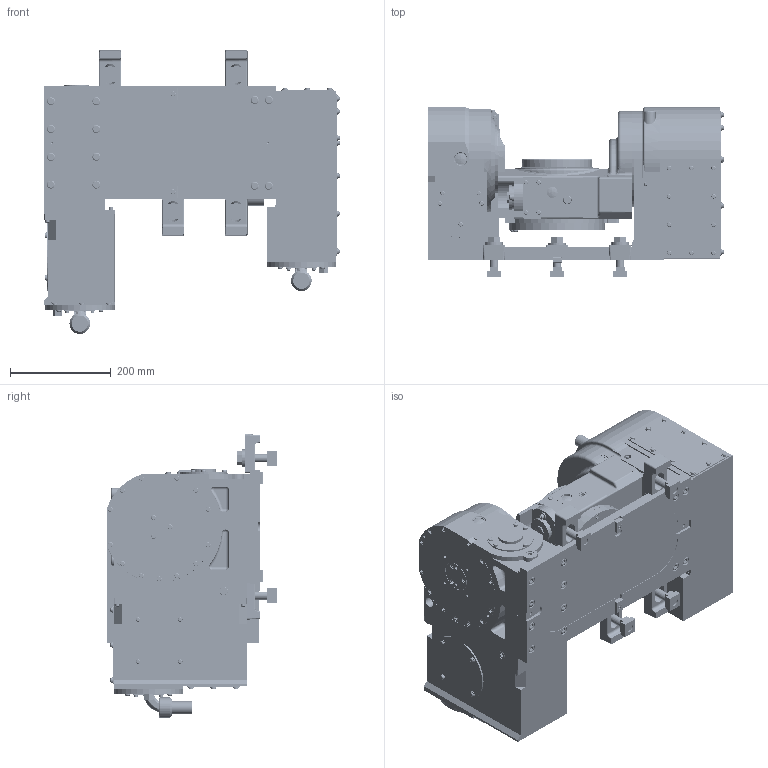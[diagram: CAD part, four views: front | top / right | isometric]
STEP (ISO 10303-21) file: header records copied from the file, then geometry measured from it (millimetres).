
FILE_DESCRIPTION (( 'STEP AP214' ), '1' );
FILE_NAME ('【掲載用】TT140Quinte.STEP', '2019-10-15T04:02:57', ( '' ), ( '' ), 'SwSTEP 2.0', 'SolidWorks 2017', '' );
FILE_SCHEMA (( 'AUTOMOTIVE_DESIGN' ));
Length unit declared in the file: millimetre
Products named in the file (29): ベース(61E111298)_回転モデル; カバー C(61E454413)_回転モデル; カバー B(61E454412)_回転モデル; 【掲載用】TT140Quinte; シリンダ(61E381670)_回転モデル; ベアリングプッシュプレート(61E381727)_回転モデル; ボデー(61E1132671)_回転モデル; BASE_TT140AV; 働乕僽儖N29ZSZ2562; キタガワシール; SMC KQ2E08-02; コネクタプレート(61E4610931)TT140A5-02; 僇僶乕丂俹(61E4458433)MR250RAM01; モータケース(61E280985)旧61E270783; CLAMPING PARTS（61E424758）; モータケース(61E272758)旧61E252257; TABLE(61E3817261)TT140A00; アダプタ(61E381607); BODY(61E250444)TT140A00; ガイドブロック(61M4197783); アナプラグ 04; プレート(61E2503798)_標準; アナプラグ 03; BASE(61E250443)TT140A00; オイルゲージ 257; グリスニップル A M6; モータフランジ(61E250281)_回転モデル; ササエ(61E250282)_回転モデル; カバー D(61E454414)_回転モデル
Assembly tree (36 placements, depth 4):
  【掲載用】TT140Quinte
    BASE_TT140AV
      BASE(61E250443)TT140A00
        ベース(61E111298)_回転モデル
        ササエ(61E250282)_回転モデル
        グリスニップル A M6
      プレート(61E2503798)_標準
      ガイドブロック(61M4197783)  x2
      アダプタ(61E381607)
      モータケース(61E272758)旧61E252257
      モータケース(61E280985)旧61E270783
      僇僶乕丂俹(61E4458433)MR250RAM01
      コネクタプレート(61E4610931)TT140A5-02  x2
      SMC KQ2E08-02  x2
      キタガワシール
      働乕僽儖N29ZSZ2562  x2
    BODY(61E250444)TT140A00
      ボデー(61E1132671)_回転モデル
      ベアリングプッシュプレート(61E381727)_回転モデル
      シリンダ(61E381670)_回転モデル
      カバー B(61E454412)_回転モデル
      カバー C(61E454413)_回転モデル
      カバー D(61E454414)_回転モデル
      モータフランジ(61E250281)_回転モデル
      オイルゲージ 257
      アナプラグ 03  x2
      アナプラグ 04
    TABLE(61E3817261)TT140A00
    CLAMPING PARTS（61E424758）  x4
Bounding box: 584.8 x 336 x 562.4 mm (x, y, z)
Volume: 39178778.4 mm3; surface area: 2266104.8 mm2
Topology: 37 solids, 38 shells, 5254 faces, 12853 edges, 8266 vertices
Faces by surface type: plane 3130, cylinder 1440, cone 403, torus 204, bspline 57, sphere 20
Entity records: 166913 total; most frequent: CARTESIAN_POINT 29471, DIRECTION 24706, ORIENTED_EDGE 23690, EDGE_CURVE 11845, LINE 8290, VECTOR 8290, AXIS2_PLACEMENT_3D 8208, VERTEX_POINT 7690
